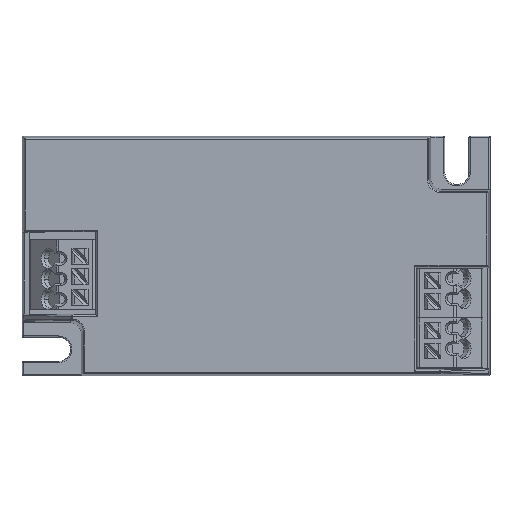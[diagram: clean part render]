
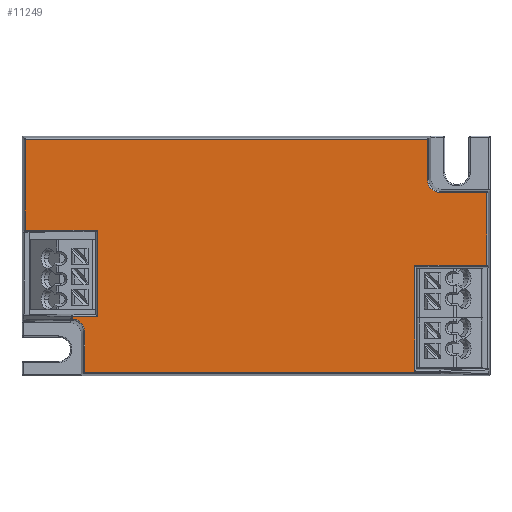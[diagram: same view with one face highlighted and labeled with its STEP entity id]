
A CAD part, top view. The second image highlights one B-rep face of the part: STEP entity #11249.
In plain terms, the highlighted planar face has unit normal (0, 0, 1).
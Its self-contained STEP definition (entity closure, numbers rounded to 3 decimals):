
#154 = CARTESIAN_POINT ( 'NONE',  ( -31.408, -10.806, 22. ) ) ;
#249 = CARTESIAN_POINT ( 'NONE',  ( 0., 19.919, 22. ) ) ;
#395 = DIRECTION ( 'NONE',  ( 1., 0., 0. ) ) ;
#409 = EDGE_CURVE ( 'NONE', #23202, #6691, #13323, .T. ) ;
#781 = CARTESIAN_POINT ( 'NONE',  ( 27.129, -19.747, 22. ) ) ;
#992 = VERTEX_POINT ( 'NONE', #22677 ) ;
#1148 = VERTEX_POINT ( 'NONE', #12759 ) ;
#1302 = VECTOR ( 'NONE', #11198, 1000. ) ;
#1423 = VECTOR ( 'NONE', #19807, 1000. ) ;
#1492 = VERTEX_POINT ( 'NONE', #2231 ) ;
#1642 = CARTESIAN_POINT ( 'NONE',  ( 29.303, 13.003, 22. ) ) ;
#1974 = CARTESIAN_POINT ( 'NONE',  ( 31.408, -19.919, 22. ) ) ;
#2117 = EDGE_CURVE ( 'NONE', #19012, #1148, #8962, .T. ) ;
#2148 = CARTESIAN_POINT ( 'NONE',  ( -27.129, 0., 22. ) ) ;
#2231 = CARTESIAN_POINT ( 'NONE',  ( -27.129, 4.371, 22. ) ) ;
#2433 = VERTEX_POINT ( 'NONE', #154 ) ;
#2859 = CARTESIAN_POINT ( 'NONE',  ( -29.303, 0., 22. ) ) ;
#3052 = LINE ( 'NONE', #11458, #19678 ) ;
#3107 = LINE ( 'NONE', #6415, #16844 ) ;
#3293 = EDGE_CURVE ( 'NONE', #1492, #18252, #22634, .T. ) ;
#3474 = PLANE ( 'NONE',  #6432 ) ;
#3699 = LINE ( 'NONE', #14354, #1423 ) ;
#3831 = CARTESIAN_POINT ( 'NONE',  ( -29.303, -11.758, 22. ) ) ;
#4294 = ORIENTED_EDGE ( 'NONE', *, *, #18470, .T. ) ;
#4601 = CARTESIAN_POINT ( 'NONE',  ( 39.419, 10.803, 22. ) ) ;
#4700 = LINE ( 'NONE', #23115, #16458 ) ;
#5157 = VECTOR ( 'NONE', #18653, 1000. ) ;
#5645 = LINE ( 'NONE', #22978, #15090 ) ;
#5924 = VERTEX_POINT ( 'NONE', #13352 ) ;
#5925 = CARTESIAN_POINT ( 'NONE',  ( -29.303, -13.003, 22. ) ) ;
#6415 = CARTESIAN_POINT ( 'NONE',  ( 31.408, -19.552, 22. ) ) ;
#6432 = AXIS2_PLACEMENT_3D ( 'NONE', #16449, #21890, #7350 ) ;
#6503 = CARTESIAN_POINT ( 'NONE',  ( 0., 10.803, 22. ) ) ;
#6635 = DIRECTION ( 'NONE',  ( 0., 1., 0. ) ) ;
#6691 = VERTEX_POINT ( 'NONE', #9614 ) ;
#7038 = ORIENTED_EDGE ( 'NONE', *, *, #12887, .T. ) ;
#7219 = CARTESIAN_POINT ( 'NONE',  ( -31.408, -10.371, 22. ) ) ;
#7311 = CARTESIAN_POINT ( 'NONE',  ( -29.303, -13.003, 22. ) ) ;
#7350 = DIRECTION ( 'NONE',  ( -1., 0., 0. ) ) ;
#7478 = CARTESIAN_POINT ( 'NONE',  ( 27.129, -1.629, 22. ) ) ;
#7511 = VERTEX_POINT ( 'NONE', #23309 ) ;
#7695 = EDGE_CURVE ( 'NONE', #17103, #21135, #3052, .T. ) ;
#7737 = ORIENTED_EDGE ( 'NONE', *, *, #23709, .T. ) ;
#7745 = DIRECTION ( 'NONE',  ( 1., 0., 0. ) ) ;
#8113 = EDGE_CURVE ( 'NONE', #5924, #9494, #13341, .T. ) ;
#8962 = LINE ( 'NONE', #2859, #14397 ) ;
#8979 = EDGE_LOOP ( 'NONE', ( #4294, #11661, #12202, #11999, #19954, #7038, #18369, #21861, #18289, #7737, #18624, #17757, #14148, #22790, #12872, #15108, #12740 ) ) ;
#9053 = VECTOR ( 'NONE', #7745, 1000. ) ;
#9068 = CARTESIAN_POINT ( 'NONE',  ( -30.164, -10.86, 22. ) ) ;
#9222 = DIRECTION ( 'NONE',  ( 0., 1., 0. ) ) ;
#9236 = CARTESIAN_POINT ( 'NONE',  ( -31.408, -10.806, 22. ) ) ;
#9494 = VERTEX_POINT ( 'NONE', #781 ) ;
#9510 = CARTESIAN_POINT ( 'NONE',  ( 0., 4.371, 22. ) ) ;
#9546 = LINE ( 'NONE', #12152, #12685 ) ;
#9614 = CARTESIAN_POINT ( 'NONE',  ( -39.419, 19.919, 22. ) ) ;
#10864 = CARTESIAN_POINT ( 'NONE',  ( 39.419, -1.629, 22. ) ) ;
#10876 = EDGE_CURVE ( 'NONE', #13911, #23202, #21502, .T. ) ;
#11198 = DIRECTION ( 'NONE',  ( -1., 0., 0. ) ) ;
#11249 = ADVANCED_FACE ( 'NONE', ( #15195 ), #3474, .F. ) ;
#11268 = CARTESIAN_POINT ( 'NONE',  ( 31.503, 10.803, 22. ) ) ;
#11384 = VECTOR ( 'NONE', #15239, 1000. ) ;
#11458 = CARTESIAN_POINT ( 'NONE',  ( 0., -1.629, 22. ) ) ;
#11661 = ORIENTED_EDGE ( 'NONE', *, *, #2117, .T. ) ;
#11890 = EDGE_CURVE ( 'NONE', #18989, #2433, #3699, .T. ) ;
#11999 = ORIENTED_EDGE ( 'NONE', *, *, #19347, .T. ) ;
#12019 = DIRECTION ( 'NONE',  ( 0., -1., 0. ) ) ;
#12152 = CARTESIAN_POINT ( 'NONE',  ( 27.129, 0., 22. ) ) ;
#12202 = ORIENTED_EDGE ( 'NONE', *, *, #12985, .T. ) ;
#12614 = VERTEX_POINT ( 'NONE', #1974 ) ;
#12645 = VECTOR ( 'NONE', #9222, 1000. ) ;
#12685 = VECTOR ( 'NONE', #6635, 1000. ) ;
#12692 = DIRECTION ( 'NONE',  ( 1., 0., 0. ) ) ;
#12740 = ORIENTED_EDGE ( 'NONE', *, *, #11890, .T. ) ;
#12759 = CARTESIAN_POINT ( 'NONE',  ( -29.303, -19.919, 22. ) ) ;
#12872 = ORIENTED_EDGE ( 'NONE', *, *, #3293, .T. ) ;
#12887 = EDGE_CURVE ( 'NONE', #9494, #17103, #9546, .T. ) ;
#12892 = CARTESIAN_POINT ( 'NONE',  ( 29.303, 11.715, 22. ) ) ;
#12985 = EDGE_CURVE ( 'NONE', #1148, #12614, #21566, .T. ) ;
#13323 = LINE ( 'NONE', #249, #22480 ) ;
#13341 = LINE ( 'NONE', #23437, #1302 ) ;
#13352 = CARTESIAN_POINT ( 'NONE',  ( 31.408, -19.747, 22. ) ) ;
#13396 = CARTESIAN_POINT ( 'NONE',  ( -27.129, -10.371, 22. ) ) ;
#13779 = VERTEX_POINT ( 'NONE', #4601 ) ;
#13831 = VECTOR ( 'NONE', #12692, 1000. ) ;
#13911 = VERTEX_POINT ( 'NONE', #17583 ) ;
#14148 = ORIENTED_EDGE ( 'NONE', *, *, #20105, .T. ) ;
#14354 = CARTESIAN_POINT ( 'NONE',  ( -31.408, -11., 22. ) ) ;
#14397 = VECTOR ( 'NONE', #12019, 1000. ) ;
#15069 = DIRECTION ( 'NONE',  ( -1., 0., 0. ) ) ;
#15090 = VECTOR ( 'NONE', #19630, 1000. ) ;
#15108 = ORIENTED_EDGE ( 'NONE', *, *, #17509, .T. ) ;
#15159 = CARTESIAN_POINT ( 'NONE',  ( -39.419, 0., 22. ) ) ;
#15195 = FACE_OUTER_BOUND ( 'NONE', #8979, .T. ) ;
#15239 = DIRECTION ( 'NONE',  ( 0., -1., 0. ) ) ;
#15639 = LINE ( 'NONE', #9510, #9053 ) ;
#16240 = LINE ( 'NONE', #15159, #11384 ) ;
#16449 = CARTESIAN_POINT ( 'NONE',  ( 0., 0., 22. ) ) ;
#16458 = VECTOR ( 'NONE', #19613, 1000. ) ;
#16844 = VECTOR ( 'NONE', #21033, 1000. ) ;
#16877 = CARTESIAN_POINT ( 'NONE',  ( 29.303, 0., 22. ) ) ;
#17103 = VERTEX_POINT ( 'NONE', #7478 ) ;
#17155 = CARTESIAN_POINT ( 'NONE',  ( 30.215, 10.803, 22. ) ) ;
#17383 = EDGE_CURVE ( 'NONE', #13779, #992, #22193, .T. ) ;
#17509 = EDGE_CURVE ( 'NONE', #18252, #18989, #4700, .T. ) ;
#17583 = CARTESIAN_POINT ( 'NONE',  ( 29.303, 13.003, 22. ) ) ;
#17621 = VECTOR ( 'NONE', #19300, 1000. ) ;
#17757 = ORIENTED_EDGE ( 'NONE', *, *, #409, .T. ) ;
#18252 = VERTEX_POINT ( 'NONE', #13396 ) ;
#18254 =( BOUNDED_CURVE ( )  B_SPLINE_CURVE ( 3, ( #9236, #9068, #3831, #7311 ),
 .UNSPECIFIED., .F., .F. ) 
 B_SPLINE_CURVE_WITH_KNOTS ( ( 4, 4 ),
 ( 2.4, 3.927 ),
 .UNSPECIFIED. ) 
 CURVE ( )  GEOMETRIC_REPRESENTATION_ITEM ( )  RATIONAL_B_SPLINE_CURVE ( ( 1., 0.815, 0.815, 1. ) ) 
 REPRESENTATION_ITEM ( '' )  );
#18289 = ORIENTED_EDGE ( 'NONE', *, *, #17383, .T. ) ;
#18369 = ORIENTED_EDGE ( 'NONE', *, *, #7695, .T. ) ;
#18470 = EDGE_CURVE ( 'NONE', #2433, #19012, #18254, .T. ) ;
#18624 = ORIENTED_EDGE ( 'NONE', *, *, #10876, .T. ) ;
#18653 = DIRECTION ( 'NONE',  ( 0., -1., 0. ) ) ;
#18989 = VERTEX_POINT ( 'NONE', #7219 ) ;
#19012 = VERTEX_POINT ( 'NONE', #5925 ) ;
#19300 = DIRECTION ( 'NONE',  ( -1., 0., 0. ) ) ;
#19347 = EDGE_CURVE ( 'NONE', #12614, #5924, #3107, .T. ) ;
#19613 = DIRECTION ( 'NONE',  ( -1., 0., 0. ) ) ;
#19630 = DIRECTION ( 'NONE',  ( 0., 1., 0. ) ) ;
#19678 = VECTOR ( 'NONE', #395, 1000. ) ;
#19807 = DIRECTION ( 'NONE',  ( 0., -1., 0. ) ) ;
#19954 = ORIENTED_EDGE ( 'NONE', *, *, #8113, .T. ) ;
#20105 = EDGE_CURVE ( 'NONE', #6691, #7511, #16240, .T. ) ;
#20315 = EDGE_CURVE ( 'NONE', #21135, #13779, #5645, .T. ) ;
#21033 = DIRECTION ( 'NONE',  ( 0., 1., 0. ) ) ;
#21135 = VERTEX_POINT ( 'NONE', #10864 ) ;
#21502 = LINE ( 'NONE', #16877, #12645 ) ;
#21566 = LINE ( 'NONE', #23486, #13831 ) ;
#21656 = CARTESIAN_POINT ( 'NONE',  ( 29.303, 19.919, 22. ) ) ;
#21861 = ORIENTED_EDGE ( 'NONE', *, *, #20315, .T. ) ;
#21890 = DIRECTION ( 'NONE',  ( 0., 0., -1. ) ) ;
#21937 = EDGE_CURVE ( 'NONE', #7511, #1492, #15639, .T. ) ;
#22193 = LINE ( 'NONE', #6503, #17621 ) ;
#22480 = VECTOR ( 'NONE', #15069, 1000. ) ;
#22634 = LINE ( 'NONE', #2148, #5157 ) ;
#22677 = CARTESIAN_POINT ( 'NONE',  ( 31.503, 10.803, 22. ) ) ;
#22790 = ORIENTED_EDGE ( 'NONE', *, *, #21937, .T. ) ;
#22978 = CARTESIAN_POINT ( 'NONE',  ( 39.419, 0., 22. ) ) ;
#23065 =( BOUNDED_CURVE ( )  B_SPLINE_CURVE ( 3, ( #11268, #17155, #12892, #1642 ),
 .UNSPECIFIED., .F., .F. ) 
 B_SPLINE_CURVE_WITH_KNOTS ( ( 4, 4 ),
 ( 2.356, 3.927 ),
 .UNSPECIFIED. ) 
 CURVE ( )  GEOMETRIC_REPRESENTATION_ITEM ( )  RATIONAL_B_SPLINE_CURVE ( ( 1., 0.805, 0.805, 1. ) ) 
 REPRESENTATION_ITEM ( '' )  );
#23115 = CARTESIAN_POINT ( 'NONE',  ( -31.5, -10.371, 22. ) ) ;
#23202 = VERTEX_POINT ( 'NONE', #21656 ) ;
#23309 = CARTESIAN_POINT ( 'NONE',  ( -39.419, 4.371, 22. ) ) ;
#23437 = CARTESIAN_POINT ( 'NONE',  ( 0., -19.747, 22. ) ) ;
#23486 = CARTESIAN_POINT ( 'NONE',  ( 0., -19.919, 22. ) ) ;
#23709 = EDGE_CURVE ( 'NONE', #992, #13911, #23065, .T. ) ;
